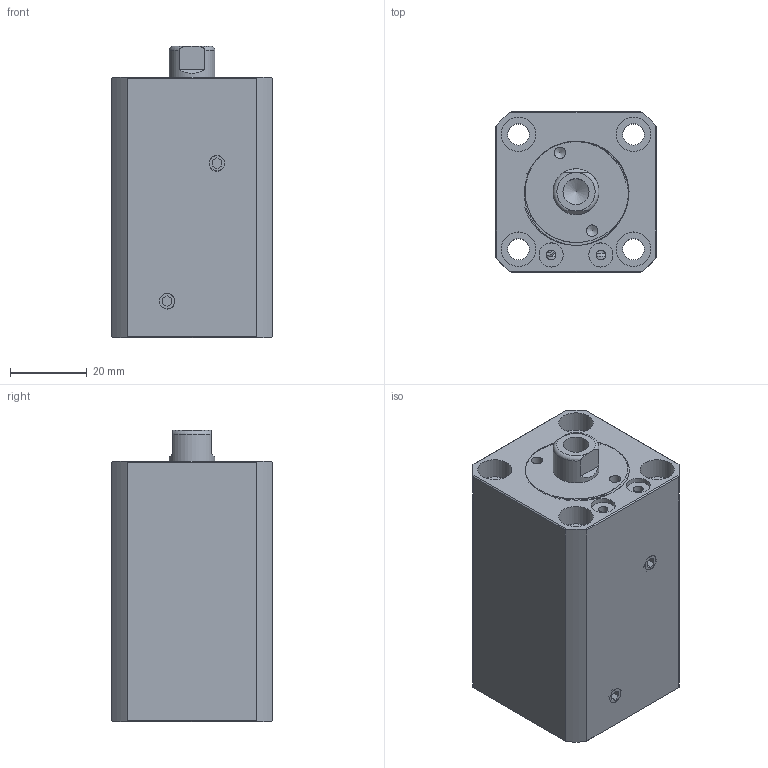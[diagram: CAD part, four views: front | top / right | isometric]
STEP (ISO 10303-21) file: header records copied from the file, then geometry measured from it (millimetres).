
FILE_DESCRIPTION(/* description */ (''),/* implementation_level */ '2;1');
FILE_NAME(/* name */ 'CHTB-sdma20x25n.stp',/* time_stamp */ '2022-04-29T15:19:28+08:00',/* author */ (''),/* organization */ (''),/* preprocessor_version */ 'ST-DEVELOPER v16.7',/* originating_system */ 'SIEMENS PLM Software NX 12.0',/* authorisation */ '');
FILE_SCHEMA (('AUTOMOTIVE_DESIGN { 1 0 10303 214 3 1 1 1 }'));
Length unit declared in the file: millimetre
Products named in the file (1): CHTB-sdma20x25n
Bounding box: 42 x 42 x 76 mm (x, y, z)
Volume: 102841.5 mm3; surface area: 33426.7 mm2
Topology: 6 solids, 6 shells, 543 faces, 1456 edges, 974 vertices
Faces by surface type: plane 334, extrusion 117, cylinder 54, torus 18, bspline 11, cone 9
Full cylindrical faces by diameter (mm): 2.5 x2, 3 x2, 4 x2, 5 x3, 5.6 x4, 6.3 x2, 6.8 x1, 9 x8, 12 x2, 16 x2, 18 x1, 20 x5, 26.5 x9
Entity records: 25829 total; most frequent: CARTESIAN_POINT 10597, ORIENTED_EDGE 2718, DIRECTION 2068, EDGE_CURVE 1359, VECTOR 1038, VERTEX_POINT 951, LINE 921, EDGE_LOOP 663
